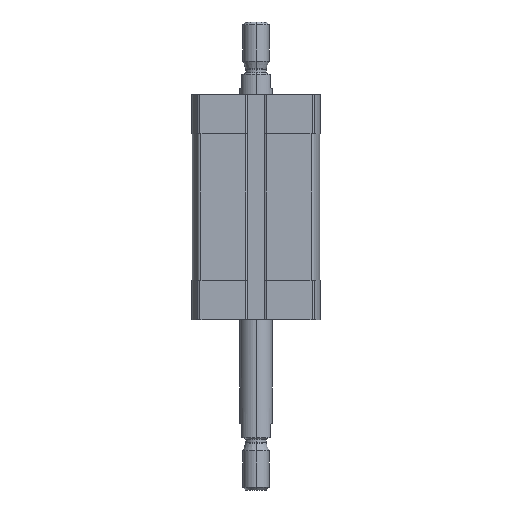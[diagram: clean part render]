
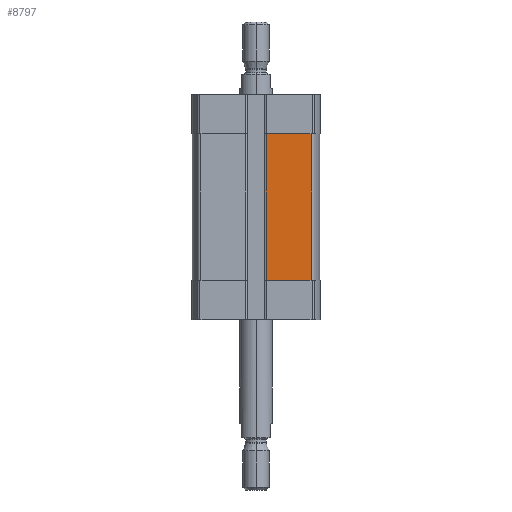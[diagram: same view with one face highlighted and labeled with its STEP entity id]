
A CAD part, left-side view. The second image highlights one B-rep face of the part: STEP entity #8797.
In plain terms, the highlighted planar face has unit normal (-1, 0, 0).
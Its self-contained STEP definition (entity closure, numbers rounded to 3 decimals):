
#34 = CARTESIAN_POINT ( 'NONE',  ( -19.5, -17.091, -12. ) ) ;
#255 = CARTESIAN_POINT ( 'NONE',  ( -19.5, -17.091, -57. ) ) ;
#1623 = VERTEX_POINT ( 'NONE', #255 ) ;
#1731 = VERTEX_POINT ( 'NONE', #9818 ) ;
#2208 = FACE_OUTER_BOUND ( 'NONE', #7069, .T. ) ;
#2483 = ORIENTED_EDGE ( 'NONE', *, *, #13166, .T. ) ;
#2493 = DIRECTION ( 'NONE',  ( -1., 0., 0. ) ) ;
#3595 = CARTESIAN_POINT ( 'NONE',  ( -19.5, -3.1, -57. ) ) ;
#3642 = CARTESIAN_POINT ( 'NONE',  ( -19.5, -3.1, -12. ) ) ;
#4252 = DIRECTION ( 'NONE',  ( 0., 0., 1. ) ) ;
#5345 = VECTOR ( 'NONE', #9729, 1000. ) ;
#5944 = DIRECTION ( 'NONE',  ( 0., 0., 1. ) ) ;
#6350 = VECTOR ( 'NONE', #10390, 1000. ) ;
#6356 = CARTESIAN_POINT ( 'NONE',  ( -19.5, -3.1, -57. ) ) ;
#6627 = VERTEX_POINT ( 'NONE', #10374 ) ;
#6628 = VECTOR ( 'NONE', #7856, 1000. ) ;
#7029 = CARTESIAN_POINT ( 'NONE',  ( -19.5, -3.1, -57. ) ) ;
#7069 = EDGE_LOOP ( 'NONE', ( #12558, #11346, #7917, #2483 ) ) ;
#7092 = LINE ( 'NONE', #8237, #9675 ) ;
#7856 = DIRECTION ( 'NONE',  ( 0., 0., 1. ) ) ;
#7917 = ORIENTED_EDGE ( 'NONE', *, *, #10256, .T. ) ;
#8237 = CARTESIAN_POINT ( 'NONE',  ( -19.5, -17.091, -57. ) ) ;
#8656 = LINE ( 'NONE', #3642, #5345 ) ;
#8797 = ADVANCED_FACE ( 'NONE', ( #2208 ), #9462, .T. ) ;
#9462 = PLANE ( 'NONE',  #12630 ) ;
#9675 = VECTOR ( 'NONE', #5944, 1000. ) ;
#9729 = DIRECTION ( 'NONE',  ( 0., -1., 0. ) ) ;
#9818 = CARTESIAN_POINT ( 'NONE',  ( -19.5, -3.1, -12. ) ) ;
#10256 = EDGE_CURVE ( 'NONE', #6627, #1623, #11353, .T. ) ;
#10374 = CARTESIAN_POINT ( 'NONE',  ( -19.5, -3.1, -57. ) ) ;
#10390 = DIRECTION ( 'NONE',  ( 0., -1., 0. ) ) ;
#11346 = ORIENTED_EDGE ( 'NONE', *, *, #12546, .F. ) ;
#11353 = LINE ( 'NONE', #7029, #6350 ) ;
#11747 = VERTEX_POINT ( 'NONE', #34 ) ;
#12546 = EDGE_CURVE ( 'NONE', #6627, #1731, #13008, .T. ) ;
#12558 = ORIENTED_EDGE ( 'NONE', *, *, #12967, .F. ) ;
#12630 = AXIS2_PLACEMENT_3D ( 'NONE', #6356, #2493, #4252 ) ;
#12967 = EDGE_CURVE ( 'NONE', #1731, #11747, #8656, .T. ) ;
#13008 = LINE ( 'NONE', #3595, #6628 ) ;
#13166 = EDGE_CURVE ( 'NONE', #1623, #11747, #7092, .T. ) ;
